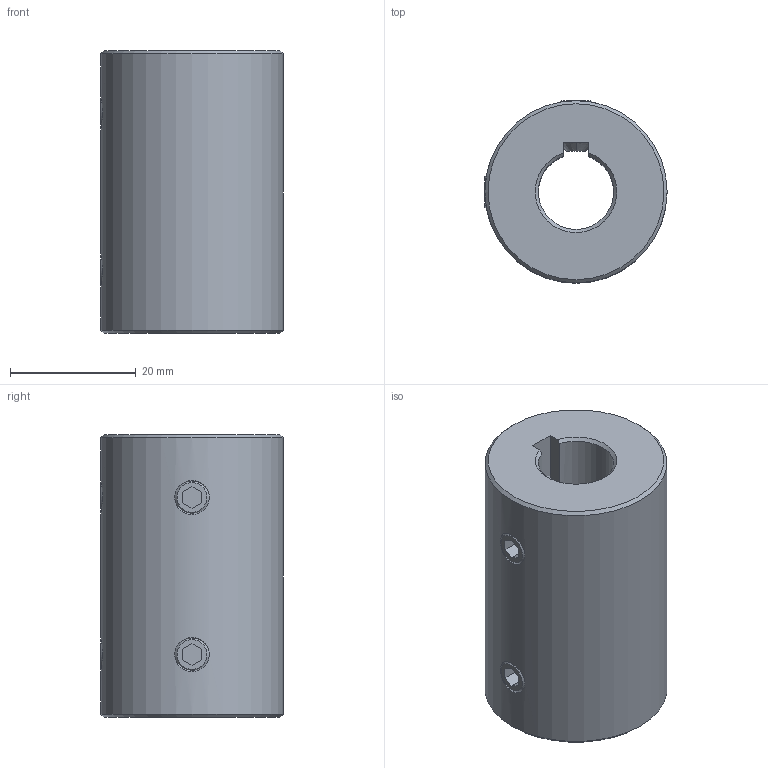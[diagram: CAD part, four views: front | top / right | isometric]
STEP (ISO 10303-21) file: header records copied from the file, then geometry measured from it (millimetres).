
FILE_DESCRIPTION (( 'STEP AP214' ), '1' );
FILE_NAME ('KBST1-VA-N12.STEP', '2025-07-29T07:25:15', ( '' ), ( '' ), 'SwSTEP 2.0', 'SolidWorks 2024', '' );
FILE_SCHEMA (( 'AUTOMOTIVE_DESIGN' ));
Length unit declared in the file: millimetre
Products named in the file (1): KBST1-VA-N12
Bounding box: 29 x 29 x 45 mm (x, y, z)
Volume: 24428 mm3; surface area: 8239.4 mm2
Topology: 5 solids, 5 shells, 89 faces, 213 edges, 128 vertices
Faces by surface type: plane 43, cone 28, cylinder 14, bspline 4
Full cylindrical faces by diameter (mm): 5 x4, 29 x1
Entity records: 8302 total; most frequent: CARTESIAN_POINT 5298, DIRECTION 390, ORIENTED_EDGE 384, EDGE_CURVE 192, LINE 130, VECTOR 130, AXIS2_PLACEMENT_3D 130, VERTEX_POINT 126
